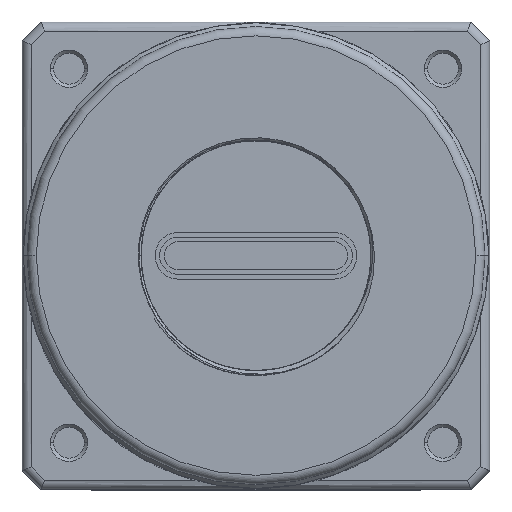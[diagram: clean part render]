
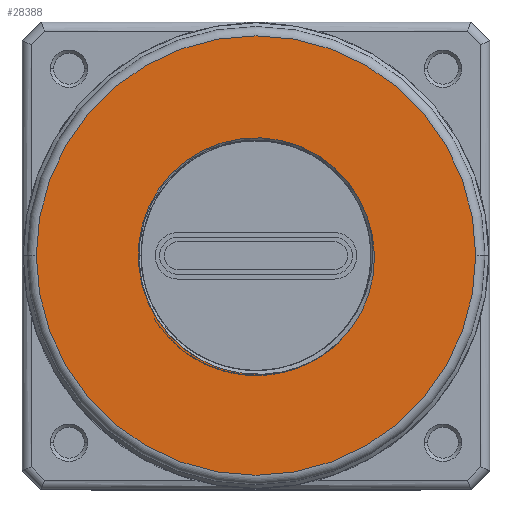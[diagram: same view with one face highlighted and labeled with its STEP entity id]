
A CAD part, top view. The second image highlights one B-rep face of the part: STEP entity #28388.
In plain terms, the highlighted planar face has unit normal (0, 0, 1).
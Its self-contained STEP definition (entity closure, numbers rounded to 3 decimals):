
#26681=CARTESIAN_POINT('',(0.,0.,2.72));
#26682=DIRECTION('',(0.,0.,1.));
#26683=DIRECTION('',(-1.,0.,0.));
#26684=AXIS2_PLACEMENT_3D('',#26681,#26682,#26683);
#26686=CARTESIAN_POINT('',(0.,0.,2.72));
#26687=DIRECTION('',(0.,0.,1.));
#26688=DIRECTION('',(1.,0.,0.));
#26689=AXIS2_PLACEMENT_3D('',#26686,#26687,#26688);
#26691=CARTESIAN_POINT('',(11.883,4.189,2.72));
#26692=CARTESIAN_POINT('',(12.101,3.603,2.72));
#26693=CARTESIAN_POINT('',(12.448,2.407,2.72));
#26694=CARTESIAN_POINT('',(12.701,0.537,2.72));
#26695=CARTESIAN_POINT('',(12.67,-1.4,2.72));
#26696=CARTESIAN_POINT('',(12.346,-3.283,2.72));
#26697=CARTESIAN_POINT('',(11.793,-4.971,2.72));
#26698=CARTESIAN_POINT('',(11.084,-6.445,2.72));
#26699=CARTESIAN_POINT('',(10.517,-7.324,2.72));
#26700=CARTESIAN_POINT('',(10.215,-7.739,2.72));
#26702=CARTESIAN_POINT('',(6.247,-11.189,2.72));
#26703=CARTESIAN_POINT('',(5.785,-11.437,2.72));
#26704=CARTESIAN_POINT('',(4.833,-11.874,2.72));
#26705=CARTESIAN_POINT('',(3.334,-12.353,2.72));
#26706=CARTESIAN_POINT('',(1.709,-12.656,2.72));
#26707=CARTESIAN_POINT('',(-0.074,-12.749,2.72));
#26708=CARTESIAN_POINT('',(-2.037,-12.56,2.72));
#26709=CARTESIAN_POINT('',(-4.019,-12.034,2.72));
#26710=CARTESIAN_POINT('',(-5.216,-11.501,2.72));
#26711=CARTESIAN_POINT('',(-5.797,-11.187,2.72));
#26713=CARTESIAN_POINT('',(10.215,-7.739,2.72));
#26714=CARTESIAN_POINT('',(10.132,-7.852,2.72));
#26715=CARTESIAN_POINT('',(9.958,-8.08,2.72));
#26716=CARTESIAN_POINT('',(9.65,-8.45,2.72));
#26717=CARTESIAN_POINT('',(9.356,-8.777,2.72));
#26718=CARTESIAN_POINT('',(9.09,-9.053,2.72));
#26719=CARTESIAN_POINT('',(8.847,-9.291,2.72));
#26720=CARTESIAN_POINT('',(8.624,-9.499,2.72));
#26721=CARTESIAN_POINT('',(8.419,-9.681,2.72));
#26722=CARTESIAN_POINT('',(8.23,-9.841,2.72));
#26723=CARTESIAN_POINT('',(8.056,-9.984,2.72));
#26724=CARTESIAN_POINT('',(7.895,-10.111,2.72));
#26725=CARTESIAN_POINT('',(7.746,-10.226,2.72));
#26726=CARTESIAN_POINT('',(7.608,-10.328,2.72));
#26727=CARTESIAN_POINT('',(7.482,-10.419,2.72));
#26728=CARTESIAN_POINT('',(7.366,-10.5,2.72));
#26729=CARTESIAN_POINT('',(7.26,-10.573,2.72));
#26730=CARTESIAN_POINT('',(7.161,-10.64,2.72));
#26731=CARTESIAN_POINT('',(7.069,-10.7,2.72));
#26732=CARTESIAN_POINT('',(6.984,-10.755,2.72));
#26733=CARTESIAN_POINT('',(6.905,-10.805,2.72));
#26734=CARTESIAN_POINT('',(6.832,-10.851,2.72));
#26735=CARTESIAN_POINT('',(6.764,-10.893,2.72));
#26736=CARTESIAN_POINT('',(6.701,-10.931,2.72));
#26737=CARTESIAN_POINT('',(6.642,-10.966,2.72));
#26738=CARTESIAN_POINT('',(6.587,-10.998,2.72));
#26739=CARTESIAN_POINT('',(6.537,-11.028,2.72));
#26740=CARTESIAN_POINT('',(6.49,-11.055,2.72));
#26741=CARTESIAN_POINT('',(6.447,-11.079,2.72));
#26742=CARTESIAN_POINT('',(6.407,-11.102,2.72));
#26743=CARTESIAN_POINT('',(6.37,-11.122,2.72));
#26744=CARTESIAN_POINT('',(6.335,-11.141,2.72));
#26745=CARTESIAN_POINT('',(6.303,-11.159,2.72));
#26746=CARTESIAN_POINT('',(6.274,-11.175,2.72));
#26747=CARTESIAN_POINT('',(6.256,-11.185,2.72));
#26748=CARTESIAN_POINT('',(6.247,-11.189,2.72));
#26987=CARTESIAN_POINT('',(0.,0.,2.72));
#26988=DIRECTION('',(0.,0.,-1.));
#26989=DIRECTION('',(-0.46,-0.888,0.));
#26990=AXIS2_PLACEMENT_3D('',#26987,#26988,#26989);
#27724=CARTESIAN_POINT('',(-23.5,0.,2.72));
#27725=CARTESIAN_POINT('',(23.5,0.,2.72));
#27726=VERTEX_POINT('',#27724);
#27727=VERTEX_POINT('',#27725);
#27748=VERTEX_POINT('',#26691);
#27749=VERTEX_POINT('',#26700);
#27750=VERTEX_POINT('',#26702);
#27751=VERTEX_POINT('',#26711);
#28368=CARTESIAN_POINT('',(0.,0.,2.72));
#28369=DIRECTION('',(0.,0.,1.));
#28370=DIRECTION('',(1.,0.,0.));
#28371=AXIS2_PLACEMENT_3D('',#28368,#28369,#28370);
#28372=PLANE('',#28371);
#28374=ORIENTED_EDGE('',*,*,#28373,.F.);
#28376=ORIENTED_EDGE('',*,*,#28375,.F.);
#28377=EDGE_LOOP('',(#28374,#28376));
#28378=FACE_OUTER_BOUND('',#28377,.F.);
#28379=ORIENTED_EDGE('',*,*,#28353,.F.);
#28381=ORIENTED_EDGE('',*,*,#28380,.F.);
#28383=ORIENTED_EDGE('',*,*,#28382,.F.);
#28385=ORIENTED_EDGE('',*,*,#28384,.F.);
#28386=EDGE_LOOP('',(#28379,#28381,#28383,#28385));
#28387=FACE_BOUND('',#28386,.F.);
#28388=ADVANCED_FACE('',(#28378,#28387),#28372,.T.);
#26685=CIRCLE('',#26684,23.5);
#26690=CIRCLE('',#26689,23.5);
#26701=B_SPLINE_CURVE_WITH_KNOTS('',3,(#26691,#26692,#26693,#26694,#26695,
#26696,#26697,#26698,#26699,#26700),.UNSPECIFIED.,.F.,.F.,(4,1,1,1,1,1,1,4),(
0.,0.143,0.286,0.429,0.571,
0.714,0.857,1.),.UNSPECIFIED.);
#26712=B_SPLINE_CURVE_WITH_KNOTS('',3,(#26702,#26703,#26704,#26705,#26706,
#26707,#26708,#26709,#26710,#26711),.UNSPECIFIED.,.F.,.F.,(4,1,1,1,1,1,1,4),(
0.,0.143,0.286,0.429,0.571,
0.714,0.857,1.),.UNSPECIFIED.);
#26749=B_SPLINE_CURVE_WITH_KNOTS('',3,(#26713,#26714,#26715,#26716,#26717,
#26718,#26719,#26720,#26721,#26722,#26723,#26724,#26725,#26726,#26727,#26728,
#26729,#26730,#26731,#26732,#26733,#26734,#26735,#26736,#26737,#26738,#26739,
#26740,#26741,#26742,#26743,#26744,#26745,#26746,#26747,#26748),.UNSPECIFIED.,
.F.,.F.,(4,1,1,1,1,1,1,1,1,1,1,1,1,1,1,1,1,1,1,1,1,1,1,1,1,1,1,1,1,1,1,1,1,4),(
0.,0.03,0.061,0.091,0.121,
0.152,0.182,0.212,0.242,
0.273,0.303,0.333,0.364,
0.394,0.424,0.455,0.485,
0.515,0.545,0.576,0.606,
0.636,0.667,0.697,0.727,
0.758,0.788,0.818,0.848,
0.879,0.909,0.939,0.97,1.),
.UNSPECIFIED.);
#26991=CIRCLE('',#26990,12.6);
#28353=EDGE_CURVE('',#27748,#27749,#26701,.T.);
#28373=EDGE_CURVE('',#27726,#27727,#26685,.T.);
#28375=EDGE_CURVE('',#27727,#27726,#26690,.T.);
#28380=EDGE_CURVE('',#27751,#27748,#26991,.T.);
#28382=EDGE_CURVE('',#27750,#27751,#26712,.T.);
#28384=EDGE_CURVE('',#27749,#27750,#26749,.T.);
